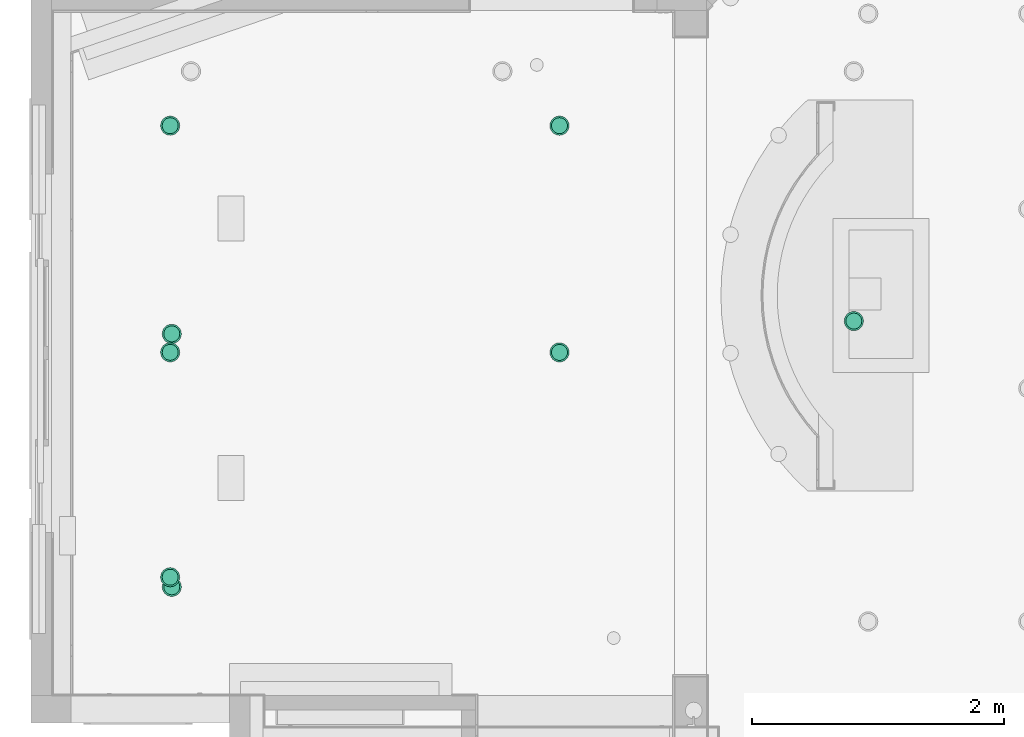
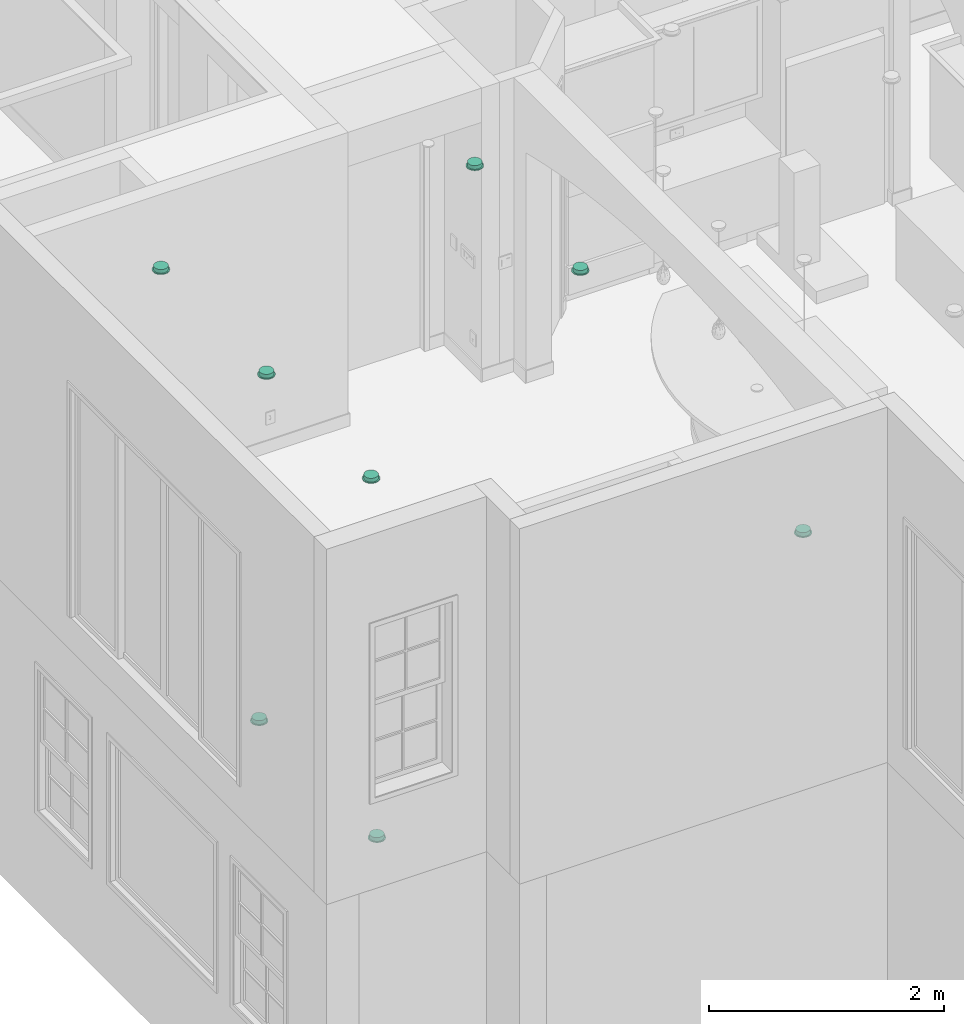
# One storey, part 38 of 81: 8 flow terminals.
"""IFC2X3 building model written with IfcOpenShell, lengths in feet."""

from ifc_helpers import new_model, entity, si_unit, converted_unit, derived_unit, direction, frame, origin, place, context, subcontext, project, spatial, faceted_brep, source, transform, mapped, material, material_list, type_object, type_shapes, element, save


model = new_model("IFC2X3")

# Units and contexts
model_context = context("Model", 3, precision=0.0001, world=origin(), true_north=direction((6.12303176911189e-17, 1.0)))
body_context = subcontext(model_context, "Body", "Model", "MODEL_VIEW")
ifc_project = project(units=[converted_unit("LENGTHUNIT", "FOOT", entity("IfcRatioMeasure", 0.3048), si_unit("LENGTHUNIT", "METRE"), dimensions=[1, 0, 0, 0, 0, 0, 0]), converted_unit("AREAUNIT", "SQUARE FOOT", entity("IfcRatioMeasure", 0.09290304), si_unit("AREAUNIT", "SQUARE_METRE"), dimensions=[2, 0, 0, 0, 0, 0, 0]), converted_unit("VOLUMEUNIT", "CUBIC FOOT", entity("IfcRatioMeasure", 0.028316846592), si_unit("VOLUMEUNIT", "CUBIC_METRE"), dimensions=[3, 0, 0, 0, 0, 0, 0]), converted_unit("PLANEANGLEUNIT", "DEGREE", entity("IfcRatioMeasure", 0.0174532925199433), si_unit("PLANEANGLEUNIT", "RADIAN"), dimensions=[0, 0, 0, 0, 0, 0, 0]), si_unit("MASSUNIT", "GRAM", prefix="KILO"), derived_unit("MASSDENSITYUNIT", [(si_unit("MASSUNIT", "GRAM", prefix="KILO"), 1), (si_unit("LENGTHUNIT", "METRE"), -3)]), derived_unit("MOMENTOFINERTIAUNIT", [(si_unit("LENGTHUNIT", "METRE"), 4)]), si_unit("TIMEUNIT", "SECOND"), si_unit("FREQUENCYUNIT", "HERTZ"), si_unit("THERMODYNAMICTEMPERATUREUNIT", "DEGREE_CELSIUS"), derived_unit("THERMALTRANSMITTANCEUNIT", [(si_unit("MASSUNIT", "GRAM", prefix="KILO"), 1), (si_unit("THERMODYNAMICTEMPERATUREUNIT", "KELVIN"), -1), (si_unit("TIMEUNIT", "SECOND"), -3)]), derived_unit("VOLUMETRICFLOWRATEUNIT", [(si_unit("LENGTHUNIT", "METRE"), 3), (si_unit("TIMEUNIT", "SECOND"), -1)]), si_unit("ELECTRICCURRENTUNIT", "AMPERE"), si_unit("ELECTRICVOLTAGEUNIT", "VOLT"), si_unit("POWERUNIT", "WATT"), si_unit("FORCEUNIT", "NEWTON"), si_unit("ILLUMINANCEUNIT", "LUX"), si_unit("LUMINOUSFLUXUNIT", "LUMEN"), si_unit("LUMINOUSINTENSITYUNIT", "CANDELA"), derived_unit("USERDEFINED", [(si_unit("MASSUNIT", "GRAM", prefix="KILO"), -1), (si_unit("LENGTHUNIT", "METRE"), -2), (si_unit("TIMEUNIT", "SECOND"), 3), (si_unit("LUMINOUSFLUXUNIT", "LUMEN"), 1)]), derived_unit("LINEARVELOCITYUNIT", [(si_unit("LENGTHUNIT", "METRE"), 1), (si_unit("TIMEUNIT", "SECOND"), -1)]), si_unit("PRESSUREUNIT", "PASCAL"), derived_unit("USERDEFINED", [(si_unit("LENGTHUNIT", "METRE"), -2), (si_unit("MASSUNIT", "GRAM", prefix="KILO"), 1), (si_unit("TIMEUNIT", "SECOND"), -2)]), derived_unit("LINEARFORCEUNIT", [(si_unit("MASSUNIT", "GRAM", prefix="KILO"), 1), (si_unit("LENGTHUNIT", "METRE"), 1), (si_unit("TIMEUNIT", "SECOND"), -2), (si_unit("LENGTHUNIT", "METRE"), -1)]), derived_unit("PLANARFORCEUNIT", [(si_unit("MASSUNIT", "GRAM", prefix="KILO"), 1), (si_unit("LENGTHUNIT", "METRE"), 1), (si_unit("TIMEUNIT", "SECOND"), -2), (si_unit("LENGTHUNIT", "METRE"), -2)])], contexts=[model_context])

# Site, building, storey
site_placement = place(None, origin())
site = spatial("IfcSite", under=ifc_project, at=site_placement, Name="Default", CompositionType="ELEMENT")
building_placement = place(site_placement, origin())
building = spatial("IfcBuilding", under=site, at=building_placement, CompositionType="ELEMENT")
storey_placement = place(building_placement, origin())
storey = spatial("IfcBuildingStorey", under=building, at=storey_placement, Name="First floor", CompositionType="ELEMENT", Elevation=0.0)

# Flow terminals
ifc_material_1 = material(Name="Default New Material")
ifc_material_2 = material(Name="Glass, White, High Luminance")
ifc_material_list_1 = material_list([ifc_material_1, ifc_material_2])
ifc_material_list_2 = material_list([ifc_material_1, ifc_material_2])
light_fixture_type = type_object("IfcLightFixtureType", Name="M_Recessed Lamp - Round - LED:Light 2", PredefinedType="NOTDEFINED", material=ifc_material_list_2)
shared_shape = source(origin(), body_context, "Body", "Brep", [
    faceted_brep([(-0.124999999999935, 0.216506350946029, 0.0208333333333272), (-0.176776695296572, 0.176776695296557, 0.0208333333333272), (-0.0833333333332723, 0.144337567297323, 0.0208333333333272), (-0.0431365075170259, 0.160987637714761, 0.0208333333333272), (-0.0647047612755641, 0.241481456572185, 0.0208333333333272), (-0.117851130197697, 0.117851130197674, 0.0208333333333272), (-0.216506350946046, 0.12499999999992, 0.0208333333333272), (-0.144337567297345, 0.0833333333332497, 0.0208333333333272), (-0.160987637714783, 0.0431365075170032, 0.0208333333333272), (-0.241481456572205, 0.0647047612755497, 0.0208333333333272), (-0.166666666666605, 0.0, 0.0208333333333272), (-0.249999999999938, 0.0, 0.0208333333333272), (-0.160987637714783, -0.0431365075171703, 0.0208333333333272), (-0.241481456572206, -0.0647047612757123, 0.0208333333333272), (-0.144337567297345, -0.0833333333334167, 0.0208333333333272), (-0.216506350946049, -0.125000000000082, 0.0208333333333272), (-0.117851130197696, -0.117851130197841, 0.0208333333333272), (-0.176776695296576, -0.176776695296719, 0.0208333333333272), (-0.0833333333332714, -0.14433756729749, 0.0208333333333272), (-0.12499999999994, -0.216506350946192, 0.0208333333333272), (-0.0431365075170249, -0.160987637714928, 0.0208333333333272), (-0.0647047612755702, -0.24148145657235, 0.0208333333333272), (0.0, -0.16666666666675, 0.0208333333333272), (0.0, -0.250000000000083, 0.0208333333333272), (0.0431365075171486, -0.160987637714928, 0.0208333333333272), (0.0647047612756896, -0.241481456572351, 0.0208333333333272), (0.0833333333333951, -0.144337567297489, 0.0208333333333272), (0.12500000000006, -0.216506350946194, 0.0208333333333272), (0.11785113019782, -0.117851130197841, 0.0208333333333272), (0.176776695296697, -0.176776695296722, 0.0208333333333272), (0.144337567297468, -0.0833333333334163, 0.0208333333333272), (0.21650635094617, -0.125000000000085, 0.0208333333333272), (0.241481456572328, -0.0647047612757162, 0.0208333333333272), (0.160987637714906, -0.0431365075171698, 0.0208333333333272), (0.250000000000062, 0.0, 0.0208333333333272), (0.166666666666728, 0.0, 0.0208333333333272), (0.241481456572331, 0.06470476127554, 0.0208333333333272), (0.160987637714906, 0.0431365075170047, 0.0208333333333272), (0.216506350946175, 0.124999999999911, 0.0208333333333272), (0.144337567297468, 0.0833333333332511, 0.0208333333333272), (0.176776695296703, 0.176776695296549, 0.0208333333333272), (0.117851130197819, 0.117851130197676, 0.0208333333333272), (0.125000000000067, 0.216506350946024, 0.0208333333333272), (0.0833333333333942, 0.144337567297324, 0.0208333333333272), (0.0647047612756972, 0.241481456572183, 0.0208333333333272), (0.0431365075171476, 0.160987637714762, 0.0208333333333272), (0.0, 0.249999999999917, 0.0208333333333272), (0.0, 0.166666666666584, 0.0208333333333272), (-0.12499999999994, -0.216506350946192, 0.0), (-0.176776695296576, -0.176776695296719, 0.0), (-0.0833333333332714, -0.14433756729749, 0.0), (-0.0431365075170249, -0.160987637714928, 0.0), (-0.0647047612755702, -0.24148145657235, 0.0), (-0.117851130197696, -0.117851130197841, 0.0), (-0.216506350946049, -0.125000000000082, 0.0), (-0.144337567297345, -0.0833333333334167, 0.0), (-0.160987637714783, -0.0431365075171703, 0.0), (-0.241481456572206, -0.0647047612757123, 0.0), (-0.166666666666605, 0.0, 0.0), (-0.249999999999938, 0.0, 0.0), (-0.160987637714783, 0.0431365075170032, 0.0), (-0.241481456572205, 0.0647047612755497, 0.0), (-0.144337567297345, 0.0833333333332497, 0.0), (-0.216506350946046, 0.12499999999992, 0.0), (-0.117851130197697, 0.117851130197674, 0.0), (-0.176776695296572, 0.176776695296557, 0.0), (-0.0833333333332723, 0.144337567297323, 0.0), (-0.124999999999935, 0.216506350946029, 0.0), (-0.0431365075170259, 0.160987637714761, 0.0), (-0.0647047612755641, 0.241481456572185, 0.0), (0.0, 0.166666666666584, 0.0), (0.0, 0.249999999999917, 0.0), (0.0431365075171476, 0.160987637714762, 0.0), (0.0647047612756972, 0.241481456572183, 0.0), (0.0833333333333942, 0.144337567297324, 0.0), (0.125000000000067, 0.216506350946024, 0.0), (0.117851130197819, 0.117851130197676, 0.0), (0.176776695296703, 0.176776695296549, 0.0), (0.144337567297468, 0.0833333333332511, 0.0), (0.216506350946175, 0.124999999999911, 0.0), (0.241481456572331, 0.06470476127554, 0.0), (0.160987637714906, 0.0431365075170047, 0.0), (0.250000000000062, 0.0, 0.0), (0.166666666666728, 0.0, 0.0), (0.241481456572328, -0.0647047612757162, 0.0), (0.160987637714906, -0.0431365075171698, 0.0), (0.21650635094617, -0.125000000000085, 0.0), (0.144337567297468, -0.0833333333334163, 0.0), (0.176776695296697, -0.176776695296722, 0.0), (0.11785113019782, -0.117851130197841, 0.0), (0.12500000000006, -0.216506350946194, 0.0), (0.0833333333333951, -0.144337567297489, 0.0), (0.0647047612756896, -0.241481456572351, 0.0), (0.0431365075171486, -0.160987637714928, 0.0), (0.0, -0.250000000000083, 0.0), (0.0, -0.16666666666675, 0.0)], [[[0, 1, 2]], [[0, 2, 3]], [[3, 4, 0]], [[2, 1, 5]], [[6, 5, 1]], [[7, 5, 6]], [[8, 7, 6]], [[8, 6, 9]], [[8, 9, 10]], [[10, 9, 11]], [[12, 10, 11]], [[12, 11, 13]], [[14, 12, 13]], [[14, 13, 15]], [[16, 14, 15]], [[15, 17, 16]], [[17, 18, 16]], [[18, 17, 19]], [[18, 19, 20]], [[21, 20, 19]], [[20, 21, 22]], [[22, 21, 23]], [[23, 24, 22]], [[24, 23, 25]], [[24, 25, 26]], [[27, 26, 25]], [[27, 28, 26]], [[27, 29, 28]], [[30, 28, 29]], [[31, 30, 29]], [[32, 30, 31]], [[33, 30, 32]], [[33, 32, 34]], [[34, 35, 33]], [[36, 35, 34]], [[36, 37, 35]], [[37, 36, 38]], [[39, 37, 38]], [[39, 38, 40]], [[39, 40, 41]], [[40, 42, 41]], [[41, 42, 43]], [[43, 42, 44]], [[44, 45, 43]], [[46, 45, 44]], [[4, 47, 46]], [[45, 46, 47]], [[4, 3, 47]], [[48, 49, 50]], [[48, 50, 51]], [[51, 52, 48]], [[50, 49, 53]], [[54, 53, 49]], [[55, 53, 54]], [[56, 55, 54]], [[56, 54, 57]], [[56, 57, 58]], [[58, 57, 59]], [[60, 58, 59]], [[60, 59, 61]], [[62, 60, 61]], [[62, 61, 63]], [[64, 62, 63]], [[63, 65, 64]], [[65, 66, 64]], [[66, 65, 67]], [[66, 67, 68]], [[69, 68, 67]], [[68, 69, 70]], [[70, 69, 71]], [[71, 72, 70]], [[72, 71, 73]], [[72, 73, 74]], [[75, 74, 73]], [[75, 76, 74]], [[75, 77, 76]], [[78, 76, 77]], [[79, 78, 77]], [[80, 78, 79]], [[81, 78, 80]], [[81, 80, 82]], [[82, 83, 81]], [[84, 83, 82]], [[84, 85, 83]], [[85, 84, 86]], [[87, 85, 86]], [[87, 86, 88]], [[87, 88, 89]], [[88, 90, 89]], [[89, 90, 91]], [[91, 90, 92]], [[92, 93, 91]], [[94, 93, 92]], [[52, 95, 94]], [[93, 94, 95]], [[52, 51, 95]], [[10, 58, 60, 8]], [[8, 60, 62, 7]], [[2, 5, 64, 66]], [[62, 64, 5, 7]], [[3, 2, 66, 68]], [[70, 47, 3, 68]], [[45, 72, 74, 43]], [[43, 74, 76, 41]], [[37, 39, 78, 81]], [[76, 78, 39, 41]], [[35, 37, 81, 83]], [[45, 47, 70, 72]], [[35, 83, 85, 33]], [[33, 85, 87, 30]], [[26, 28, 89, 91]], [[87, 89, 28, 30]], [[24, 26, 91, 93]], [[95, 22, 24, 93]], [[20, 51, 50, 18]], [[18, 50, 53, 16]], [[12, 14, 55, 56]], [[53, 55, 14, 16]], [[10, 12, 56, 58]], [[20, 22, 95, 51]], [[57, 13, 11, 59]], [[54, 15, 13, 57]], [[19, 17, 49, 48]], [[54, 49, 17, 15]], [[21, 19, 48, 52]], [[23, 21, 52, 94]], [[92, 25, 23, 94]], [[90, 27, 25, 92]], [[31, 29, 88, 86]], [[90, 88, 29, 27]], [[32, 31, 86, 84]], [[34, 32, 84, 82]], [[80, 36, 34, 82]], [[79, 38, 36, 80]], [[42, 40, 77, 75]], [[79, 77, 40, 38]], [[44, 42, 75, 73]], [[46, 44, 73, 71]], [[69, 4, 46, 71]], [[67, 0, 4, 69]], [[6, 1, 65, 63]], [[67, 65, 1, 0]], [[9, 6, 63, 61]], [[11, 9, 61, 59]]]),
    faceted_brep([(0.0431365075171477, -0.160987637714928, 0.0208333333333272), (0.0833333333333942, -0.14433756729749, 0.0208333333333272), (0.117851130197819, -0.117851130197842, 0.0208333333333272), (0.144337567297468, -0.0833333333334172, 0.0208333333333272), (0.160987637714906, -0.0431365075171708, 0.0208333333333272), (0.166666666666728, 0.0, 0.0208333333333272), (0.160987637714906, 0.0431365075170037, 0.0208333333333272), (0.144337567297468, 0.0833333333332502, 0.0208333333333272), (0.11785113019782, 0.117851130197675, 0.0208333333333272), (0.0833333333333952, 0.144337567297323, 0.0208333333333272), (0.0431365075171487, 0.160987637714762, 0.0208333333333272), (0.0, 0.166666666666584, 0.0208333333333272), (-0.0431365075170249, 0.160987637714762, 0.0208333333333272), (-0.0833333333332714, 0.144337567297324, 0.0208333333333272), (-0.117851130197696, 0.117851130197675, 0.0208333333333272), (-0.144337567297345, 0.0833333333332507, 0.0208333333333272), (-0.160987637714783, 0.0431365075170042, 0.0208333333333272), (-0.166666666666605, 0.0, 0.0208333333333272), (-0.160987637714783, -0.0431365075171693, 0.0208333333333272), (-0.144337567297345, -0.0833333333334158, 0.0208333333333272), (-0.117851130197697, -0.117851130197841, 0.0208333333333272), (-0.0833333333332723, -0.144337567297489, 0.0208333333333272), (-0.0431365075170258, -0.160987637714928, 0.0208333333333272), (0.0, -0.16666666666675, 0.0208333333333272), (0.0431365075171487, 0.160987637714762, 0.0), (0.0833333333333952, 0.144337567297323, 0.0), (0.11785113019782, 0.117851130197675, 0.0), (0.144337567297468, 0.0833333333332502, 0.0), (0.160987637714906, 0.0431365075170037, 0.0), (0.166666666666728, 0.0, 0.0), (0.160987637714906, -0.0431365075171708, 0.0), (0.144337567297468, -0.0833333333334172, 0.0), (0.117851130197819, -0.117851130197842, 0.0), (0.0833333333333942, -0.14433756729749, 0.0), (0.0431365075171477, -0.160987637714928, 0.0), (0.0, -0.16666666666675, 0.0), (-0.0431365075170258, -0.160987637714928, 0.0), (-0.0833333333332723, -0.144337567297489, 0.0), (-0.117851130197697, -0.117851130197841, 0.0), (-0.144337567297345, -0.0833333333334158, 0.0), (-0.160987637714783, -0.0431365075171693, 0.0), (-0.166666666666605, 0.0, 0.0), (-0.160987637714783, 0.0431365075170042, 0.0), (-0.144337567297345, 0.0833333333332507, 0.0), (-0.117851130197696, 0.117851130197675, 0.0), (-0.0833333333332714, 0.144337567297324, 0.0), (-0.0431365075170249, 0.160987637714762, 0.0), (0.0, 0.166666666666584, 0.0)], [[[0, 1, 2, 3, 4, 5, 6, 7, 8, 9, 10, 11, 12, 13, 14, 15, 16, 17, 18, 19, 20, 21, 22, 23]], [[24, 25, 26, 27, 28, 29, 30, 31, 32, 33, 34, 35, 36, 37, 38, 39, 40, 41, 42, 43, 44, 45, 46, 47]], [[40, 18, 17, 41]], [[39, 19, 18, 40]], [[21, 20, 38, 37]], [[39, 38, 20, 19]], [[22, 21, 37, 36]], [[23, 22, 36, 35]], [[34, 0, 23, 35]], [[33, 1, 0, 34]], [[3, 2, 32, 31]], [[33, 32, 2, 1]], [[4, 3, 31, 30]], [[5, 4, 30, 29]], [[28, 6, 5, 29]], [[27, 7, 6, 28]], [[9, 8, 26, 25]], [[27, 26, 8, 7]], [[10, 9, 25, 24]], [[11, 10, 24, 47]], [[46, 12, 11, 47]], [[45, 13, 12, 46]], [[15, 14, 44, 43]], [[45, 44, 14, 13]], [[16, 15, 43, 42]], [[17, 16, 42, 41]]]),
    faceted_brep([(0.0, -0.16666666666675, -0.104166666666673), (0.0431365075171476, -0.160987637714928, -0.104166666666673), (0.0833333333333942, -0.14433756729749, -0.104166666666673), (0.117851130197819, -0.117851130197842, -0.104166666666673), (0.144337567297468, -0.0833333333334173, -0.104166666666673), (0.160987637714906, -0.0431365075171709, -0.104166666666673), (0.166666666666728, 0.0, -0.104166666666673), (0.160987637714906, 0.0431365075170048, -0.104166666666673), (0.144337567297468, 0.0833333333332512, -0.104166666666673), (0.117851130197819, 0.117851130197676, -0.104166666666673), (0.0833333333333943, 0.144337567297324, -0.104166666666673), (0.0431365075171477, 0.160987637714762, -0.104166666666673), (0.0, 0.166666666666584, -0.104166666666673), (-0.0431365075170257, 0.160987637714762, -0.104166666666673), (-0.0833333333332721, 0.144337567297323, -0.104166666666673), (-0.117851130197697, 0.117851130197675, -0.104166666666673), (-0.144337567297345, 0.0833333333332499, -0.104166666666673), (-0.160987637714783, 0.0431365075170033, -0.104166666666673), (-0.166666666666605, 0.0, -0.104166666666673), (-0.160987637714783, -0.0431365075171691, -0.104166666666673), (-0.144337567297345, -0.0833333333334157, -0.104166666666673), (-0.117851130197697, -0.11785113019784, -0.104166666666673), (-0.0833333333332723, -0.144337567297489, -0.104166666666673), (-0.0431365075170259, -0.160987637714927, -0.104166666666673), (0.0, 0.20833333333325, -0.125000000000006), (0.0539206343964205, 0.201234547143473, -0.125000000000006), (0.104166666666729, 0.180421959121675, -0.125000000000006), (0.147313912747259, 0.147313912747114, -0.125000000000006), (0.18042195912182, 0.104166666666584, -0.125000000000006), (0.201234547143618, 0.0539206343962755, -0.125000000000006), (0.208333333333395, 0.0, -0.125000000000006), (0.201234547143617, -0.0539206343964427, -0.125000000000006), (0.180421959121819, -0.104166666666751, -0.125000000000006), (0.147313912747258, -0.147313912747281, -0.125000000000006), (0.104166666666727, -0.180421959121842, -0.125000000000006), (0.0539206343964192, -0.201234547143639, -0.125000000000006), (0.0, -0.208333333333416, -0.125000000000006), (-0.0539206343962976, -0.201234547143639, -0.125000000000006), (-0.104166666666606, -0.180421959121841, -0.125000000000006), (-0.147313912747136, -0.14731391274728, -0.125000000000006), (-0.180421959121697, -0.104166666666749, -0.125000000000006), (-0.201234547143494, -0.0539206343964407, -0.125000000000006), (-0.208333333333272, 0.0, -0.125000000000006), (-0.201234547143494, 0.0539206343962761, -0.125000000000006), (-0.180421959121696, 0.104166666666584, -0.125000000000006), (-0.147313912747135, 0.147313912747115, -0.125000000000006), (-0.104166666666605, 0.180421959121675, -0.125000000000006), (-0.0539206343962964, 0.201234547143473, -0.125000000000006), (-0.201234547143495, -0.0539206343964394, -0.104166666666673), (-0.201234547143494, -0.0539206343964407, 0.0), (-0.208333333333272, 0.0, 0.0), (-0.208333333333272, 0.0, -0.104166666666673), (-0.180421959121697, -0.104166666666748, -0.104166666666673), (-0.180421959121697, -0.104166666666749, 0.0), (-0.104166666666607, -0.18042195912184, -0.104166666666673), (-0.104166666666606, -0.180421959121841, 0.0), (-0.147313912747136, -0.14731391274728, 0.0), (-0.147313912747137, -0.147313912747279, -0.104166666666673), (-0.0539206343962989, -0.201234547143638, -0.104166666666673), (-0.0539206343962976, -0.201234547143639, 0.0), (0.0, -0.208333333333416, -0.104166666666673), (0.0, -0.208333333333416, 0.0), (0.053920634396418, -0.201234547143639, -0.104166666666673), (0.0539206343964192, -0.201234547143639, 0.0), (0.104166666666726, -0.180421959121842, -0.104166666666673), (0.104166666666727, -0.180421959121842, 0.0), (0.180421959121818, -0.104166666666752, -0.104166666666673), (0.180421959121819, -0.104166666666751, 0.0), (0.147313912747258, -0.147313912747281, 0.0), (0.147313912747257, -0.147313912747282, -0.104166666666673), (0.201234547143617, -0.0539206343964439, -0.104166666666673), (0.201234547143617, -0.0539206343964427, 0.0), (0.208333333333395, 0.0, -0.104166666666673), (0.208333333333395, 0.0, 0.0), (0.201234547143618, 0.0539206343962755, -0.104166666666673), (0.201234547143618, 0.0539206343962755, 0.0), (0.18042195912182, 0.104166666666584, -0.104166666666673), (0.18042195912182, 0.104166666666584, 0.0), (0.104166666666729, 0.180421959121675, -0.104166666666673), (0.104166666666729, 0.180421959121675, 0.0), (0.147313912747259, 0.147313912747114, 0.0), (0.147313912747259, 0.147313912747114, -0.104166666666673), (0.0539206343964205, 0.201234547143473, -0.104166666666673), (0.0539206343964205, 0.201234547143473, 0.0), (0.0, 0.20833333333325, -0.104166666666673), (0.0, 0.20833333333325, 0.0), (-0.0539206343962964, 0.201234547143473, -0.104166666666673), (-0.0539206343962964, 0.201234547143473, 0.0), (-0.104166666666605, 0.180421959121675, -0.104166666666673), (-0.104166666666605, 0.180421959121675, 0.0), (-0.180421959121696, 0.104166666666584, -0.104166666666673), (-0.180421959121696, 0.104166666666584, 0.0), (-0.147313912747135, 0.147313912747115, 0.0), (-0.147313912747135, 0.147313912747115, -0.104166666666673), (-0.201234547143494, 0.0539206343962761, -0.104166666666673), (-0.201234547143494, 0.0539206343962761, 0.0), (-0.0833333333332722, 0.144337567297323, 0.0), (-0.0431365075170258, 0.160987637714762, 0.0), (-0.117851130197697, 0.117851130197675, 0.0), (-0.144337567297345, 0.0833333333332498, 0.0), (-0.160987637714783, 0.0431365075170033, 0.0), (-0.166666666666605, 0.0, 0.0), (-0.160987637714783, -0.0431365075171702, 0.0), (-0.144337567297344, -0.0833333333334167, 0.0), (-0.117851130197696, -0.117851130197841, 0.0), (-0.0833333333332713, -0.14433756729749, 0.0), (-0.0431365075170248, -0.160987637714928, 0.0), (0.0, -0.16666666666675, 0.0), (0.0431365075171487, -0.160987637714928, 0.0), (0.0833333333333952, -0.144337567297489, 0.0), (0.11785113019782, -0.117851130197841, 0.0), (0.144337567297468, -0.0833333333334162, 0.0), (0.160987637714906, -0.0431365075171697, 0.0), (0.166666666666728, 0.0, 0.0), (0.160987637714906, 0.0431365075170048, 0.0), (0.144337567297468, 0.0833333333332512, 0.0), (0.117851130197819, 0.117851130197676, 0.0), (0.0833333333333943, 0.144337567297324, 0.0), (0.0431365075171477, 0.160987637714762, 0.0), (0.0, 0.166666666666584, 0.0)], [[[0, 1, 2, 3, 4, 5, 6, 7, 8, 9, 10, 11, 12, 13, 14, 15, 16, 17, 18, 19, 20, 21, 22, 23]], [[24, 25, 26, 27, 28, 29, 30, 31, 32, 33, 34, 35, 36, 37, 38, 39, 40, 41, 42, 43, 44, 45, 46, 47]], [[41, 48, 49, 50, 51, 42]], [[40, 52, 53, 49, 48, 41]], [[54, 55, 56, 57, 39, 38]], [[40, 39, 57, 56, 53, 52]], [[58, 59, 55, 54, 38, 37]], [[60, 61, 59, 58, 37, 36]], [[35, 62, 63, 61, 60, 36]], [[34, 64, 65, 63, 62, 35]], [[66, 67, 68, 69, 33, 32]], [[34, 33, 69, 68, 65, 64]], [[70, 71, 67, 66, 32, 31]], [[72, 73, 71, 70, 31, 30]], [[29, 74, 75, 73, 72, 30]], [[28, 76, 77, 75, 74, 29]], [[78, 79, 80, 81, 27, 26]], [[28, 27, 81, 80, 77, 76]], [[82, 83, 79, 78, 26, 25]], [[84, 85, 83, 82, 25, 24]], [[47, 86, 87, 85, 84, 24]], [[46, 88, 89, 87, 86, 47]], [[90, 91, 92, 93, 45, 44]], [[46, 45, 93, 92, 89, 88]], [[94, 95, 91, 90, 44, 43]], [[51, 50, 95, 94, 43, 42]], [[89, 92, 96]], [[89, 96, 97]], [[97, 87, 89]], [[96, 92, 98]], [[91, 98, 92]], [[99, 98, 91]], [[100, 99, 91]], [[100, 91, 95]], [[100, 95, 101]], [[101, 95, 50]], [[102, 101, 50]], [[102, 50, 49]], [[103, 102, 49]], [[103, 49, 53]], [[104, 103, 53]], [[53, 56, 104]], [[56, 105, 104]], [[105, 56, 55]], [[105, 55, 106]], [[59, 106, 55]], [[106, 59, 107]], [[107, 59, 61]], [[61, 108, 107]], [[108, 61, 63]], [[108, 63, 109]], [[65, 109, 63]], [[65, 110, 109]], [[65, 68, 110]], [[111, 110, 68]], [[67, 111, 68]], [[71, 111, 67]], [[112, 111, 71]], [[112, 71, 73]], [[73, 113, 112]], [[75, 113, 73]], [[75, 114, 113]], [[114, 75, 77]], [[115, 114, 77]], [[115, 77, 80]], [[115, 80, 116]], [[80, 79, 116]], [[116, 79, 117]], [[117, 79, 83]], [[83, 118, 117]], [[85, 118, 83]], [[87, 119, 85]], [[85, 119, 118]], [[87, 97, 119]], [[113, 6, 5, 112]], [[112, 5, 4, 111]], [[109, 110, 3, 2]], [[4, 3, 110, 111]], [[108, 109, 2, 1]], [[0, 107, 108, 1]], [[104, 105, 22, 21]], [[23, 22, 105, 106]], [[102, 103, 20, 19]], [[104, 21, 20, 103]], [[102, 19, 18, 101]], [[0, 23, 106, 107]], [[101, 18, 17, 100]], [[100, 17, 16, 99]], [[96, 98, 15, 14]], [[16, 15, 98, 99]], [[97, 96, 14, 13]], [[12, 119, 97, 13]], [[118, 11, 10, 117]], [[117, 10, 9, 116]], [[114, 115, 8, 7]], [[9, 8, 115, 116]], [[113, 114, 7, 6]], [[118, 119, 12, 11]]]),
])
type_shapes(light_fixture_type, [shared_shape])
flow_terminal_1_placement = place(storey_placement, frame((4.37499999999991, 20.9583333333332, 8.41666666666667), z_axis=(0.0, 0.0, -1.0), x_axis=(1.0, 0.0, 0.0)))
element("IfcFlowTerminal", 1, at=flow_terminal_1_placement, inside=storey, type_object=light_fixture_type, material=ifc_material_list_1, Name="M_Recessed Lamp - Round - LED:Light 2", ObjectType="M_Recessed Lamp - Round - LED:Light 2", context=body_context, shape_type="MappedRepresentation", body=[
    mapped(shared_shape, transform((0.0, 0.0, 0.0), scale=1.0)),
])
ifc_material_list_3 = material_list([ifc_material_1, ifc_material_2])
flow_terminal_2_placement = place(storey_placement, frame((-13.3750000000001, 20.6249999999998, 8.41666666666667), z_axis=(0.0, 0.0, -1.0), x_axis=(1.0, 0.0, 0.0)))
element("IfcFlowTerminal", 2, at=flow_terminal_2_placement, inside=storey, type_object=light_fixture_type, material=ifc_material_list_3, Name="M_Recessed Lamp - Round - LED:Light 2", ObjectType="M_Recessed Lamp - Round - LED:Light 2", context=body_context, shape_type="MappedRepresentation", body=[
    mapped(shared_shape, transform((0.0, 0.0, 0.0), scale=1.0)),
])
ifc_material_list_4 = material_list([ifc_material_1, ifc_material_2])
flow_terminal_3_placement = place(storey_placement, frame((-13.3750000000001, 14.0416666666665, 8.41666666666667), z_axis=(0.0, 0.0, -1.0), x_axis=(1.0, 0.0, 0.0)))
element("IfcFlowTerminal", 3, at=flow_terminal_3_placement, inside=storey, type_object=light_fixture_type, material=ifc_material_list_4, Name="M_Recessed Lamp - Round - LED:Light 2", ObjectType="M_Recessed Lamp - Round - LED:Light 2", context=body_context, shape_type="MappedRepresentation", body=[
    mapped(shared_shape, transform((0.0, 0.0, 0.0), scale=1.0)),
])
ifc_material_list_5 = material_list([ifc_material_1, ifc_material_2])
flow_terminal_4_placement = place(storey_placement, frame((-13.4166666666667, 14.2916666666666, 20.5416666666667), z_axis=(0.0, 0.0, -1.0), x_axis=(1.0, 0.0, 0.0)))
element("IfcFlowTerminal", 4, at=flow_terminal_4_placement, inside=storey, type_object=light_fixture_type, material=ifc_material_list_5, Name="M_Recessed Lamp - Round - LED:Light 2", ObjectType="M_Recessed Lamp - Round - LED:Light 2", context=body_context, shape_type="MappedRepresentation", body=[
    mapped(shared_shape, transform((0.0, 0.0, 0.0), scale=1.0)),
])
ifc_material_list_6 = material_list([ifc_material_1, ifc_material_2])
flow_terminal_5_placement = place(storey_placement, frame((-13.4166666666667, 20.144534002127, 20.5416666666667), z_axis=(0.0, 0.0, -1.0), x_axis=(1.0, 0.0, 0.0)))
element("IfcFlowTerminal", 5, at=flow_terminal_5_placement, inside=storey, type_object=light_fixture_type, material=ifc_material_list_6, Name="M_Recessed Lamp - Round - LED:Light 2", ObjectType="M_Recessed Lamp - Round - LED:Light 2", context=body_context, shape_type="MappedRepresentation", body=[
    mapped(shared_shape, transform((0.0, 0.0, 0.0), scale=1.0)),
])
ifc_material_list_7 = material_list([ifc_material_1, ifc_material_2])
flow_terminal_6_placement = place(storey_placement, frame((-13.4166666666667, 26.0435267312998, 20.5416666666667), z_axis=(0.0, 0.0, -1.0), x_axis=(1.0, 0.0, 0.0)))
element("IfcFlowTerminal", 6, at=flow_terminal_6_placement, inside=storey, type_object=light_fixture_type, material=ifc_material_list_7, Name="M_Recessed Lamp - Round - LED:Light 2", ObjectType="M_Recessed Lamp - Round - LED:Light 2", context=body_context, shape_type="MappedRepresentation", body=[
    mapped(shared_shape, transform((0.0, 0.0, 0.0), scale=1.0)),
])
ifc_material_list_8 = material_list([ifc_material_1, ifc_material_2])
flow_terminal_7_placement = place(storey_placement, frame((-3.2849605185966, 26.0435267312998, 20.5416666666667), z_axis=(0.0, 0.0, -1.0), x_axis=(1.0, 0.0, 0.0)))
element("IfcFlowTerminal", 7, at=flow_terminal_7_placement, inside=storey, type_object=light_fixture_type, material=ifc_material_list_8, Name="M_Recessed Lamp - Round - LED:Light 2", ObjectType="M_Recessed Lamp - Round - LED:Light 2", context=body_context, shape_type="MappedRepresentation", body=[
    mapped(shared_shape, transform((0.0, 0.0, 0.0), scale=1.0)),
])
ifc_material_list_9 = material_list([ifc_material_1, ifc_material_2])
flow_terminal_8_placement = place(storey_placement, frame((-3.28496051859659, 20.1426636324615, 20.5416666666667), z_axis=(0.0, 0.0, -1.0), x_axis=(1.0, 0.0, 0.0)))
element("IfcFlowTerminal", 8, at=flow_terminal_8_placement, inside=storey, type_object=light_fixture_type, material=ifc_material_list_9, Name="M_Recessed Lamp - Round - LED:Light 2", ObjectType="M_Recessed Lamp - Round - LED:Light 2", context=body_context, shape_type="MappedRepresentation", body=[
    mapped(shared_shape, transform((0.0, 0.0, 0.0), scale=1.0)),
])

save(model, "model.ifc")
